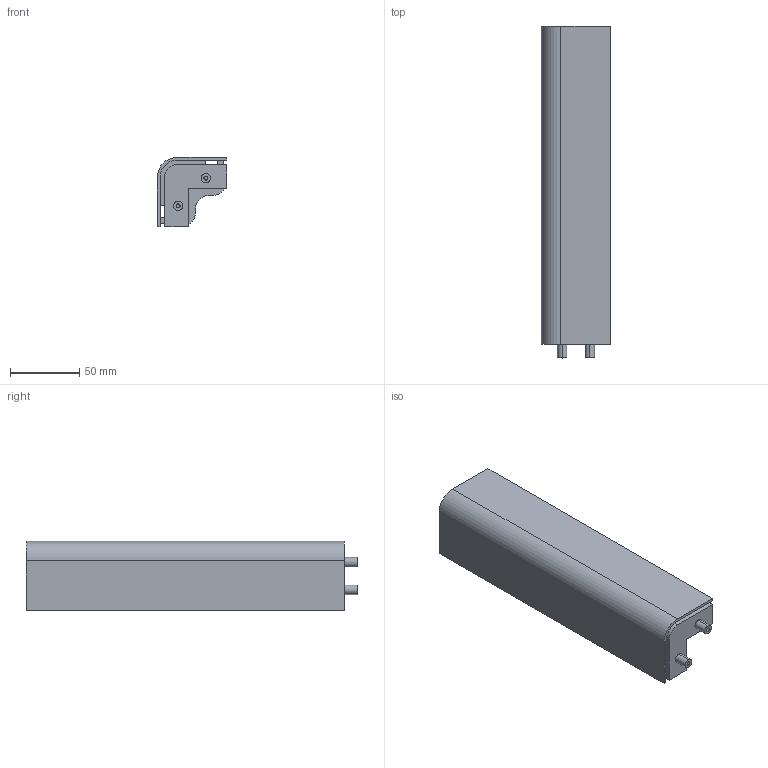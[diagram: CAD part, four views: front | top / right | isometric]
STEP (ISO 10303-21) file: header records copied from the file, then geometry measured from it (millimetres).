
FILE_DESCRIPTION (( 'STEP AP203' ), '1' );
FILE_NAME ('蕾翐.STEP', '2026-07-08T11:24:02', ( '' ), ( '' ), 'SwSTEP 2.0', 'SolidWorks 2024', '' );
FILE_SCHEMA (( 'CONFIG_CONTROL_DESIGN' ));
Length unit declared in the file: millimetre
Products named in the file (1): 立柱
Bounding box: 50 x 240 x 50 mm (x, y, z)
Volume: 153299.6 mm3; surface area: 64415.5 mm2
Topology: 1 solids, 1 shells, 51 faces, 139 edges, 91 vertices
Faces by surface type: plane 35, cylinder 15, cone 1
Entity records: 1683 total; most frequent: CARTESIAN_POINT 281, ORIENTED_EDGE 276, DIRECTION 272, EDGE_CURVE 138, LINE 108, VECTOR 108, VERTEX_POINT 91, AXIS2_PLACEMENT_3D 82
